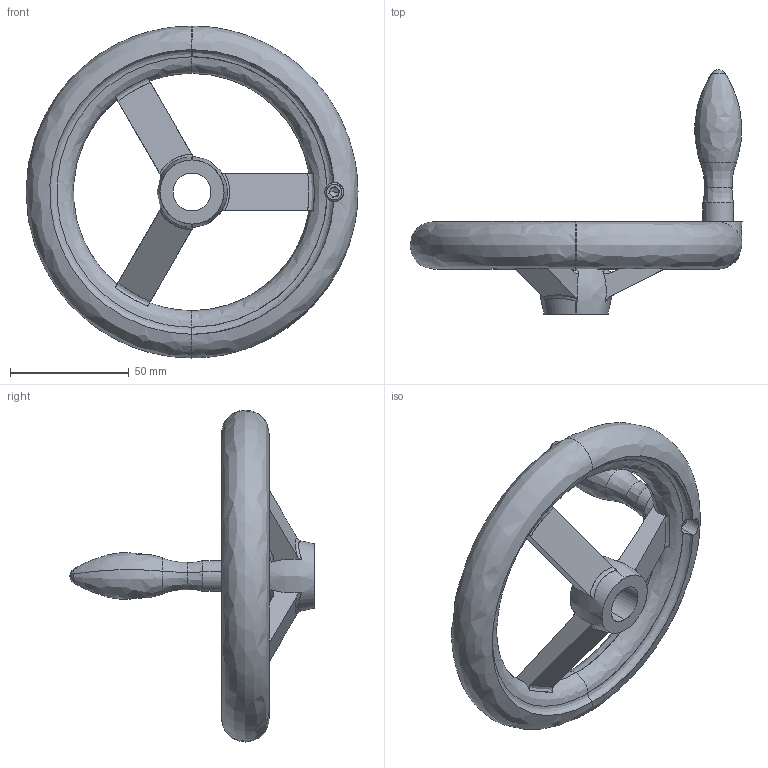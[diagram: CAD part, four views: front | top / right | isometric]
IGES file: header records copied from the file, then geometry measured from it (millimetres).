
Start section: SolidWorks IGES file using analytic representation for surfaces
Global section: file name: C:\Users\IanO\Desktop\Temp File\Process pending\77120_v2\77120_v2_20171108_IGES\77120.W0416.igs; native system: SolidWorks 2017; preprocessor: SolidWorks 2017; author: IanO; date: 171108.084715; units: millimetre
Bounding box: 140 x 103 x 140 mm (x, y, z)
Surface area: 36467.1 mm2 (no closed solid volume)
Topology: 0 solids, 0 shells, 127 faces, 1525 edges, 1518 vertices
Faces by surface type: bspline 73, revolution 54
